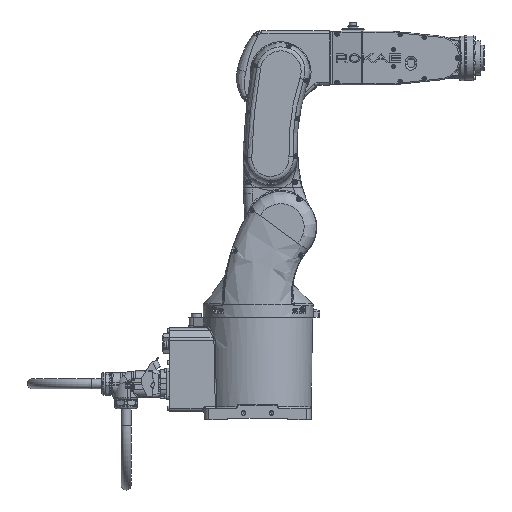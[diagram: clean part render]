
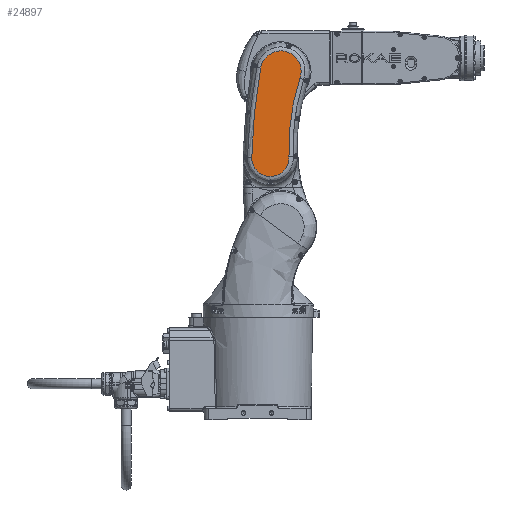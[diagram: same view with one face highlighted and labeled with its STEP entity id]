
A CAD part, front view. The second image highlights one B-rep face of the part: STEP entity #24897.
In plain terms, the highlighted planar face has unit normal (0, -1, 0).
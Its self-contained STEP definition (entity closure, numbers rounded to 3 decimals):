
#14519=FACE_OUTER_BOUND('',#34744,.T.);
#17639=B_SPLINE_CURVE_WITH_KNOTS('',3,(#133205,#133206,#133207,#133208,
#133209,#133210,#133211,#133212,#133213,#133214,#133215,#133216,#133217,
#133218,#133219,#133220,#133221,#133222,#133223,#133224,#133225,#133226,
#133227,#133228,#133229,#133230),.UNSPECIFIED.,.F.,.F.,(4,2,2,2,2,2,2,2,
2,2,2,2,4),(0.,0.063,0.125,0.188,0.25,
0.375,0.438,0.5,0.625,
0.688,0.75,0.875,1.),.UNSPECIFIED.);
#17661=B_SPLINE_CURVE_WITH_KNOTS('',3,(#133896,#133897,#133898,#133899,
#133900,#133901,#133902,#133903,#133904,#133905,#133906,#133907,#133908,
#133909,#133910,#133911,#133912,#133913,#133914,#133915,#133916,#133917,
#133918,#133919),.UNSPECIFIED.,.F.,.F.,(4,2,2,2,2,2,2,2,2,2,2,4),(0.,0.125,
0.187,0.25,0.375,0.5,0.563,0.625,
0.75,0.813,0.875,1.),.UNSPECIFIED.);
#17675=B_SPLINE_CURVE_WITH_KNOTS('',3,(#134203,#134204,#134205,#134206),
 .UNSPECIFIED.,.F.,.F.,(4,4),(0.,1.),.UNSPECIFIED.);
#17677=B_SPLINE_CURVE_WITH_KNOTS('',3,(#134235,#134236,#134237,#134238,
#134239,#134240),.UNSPECIFIED.,.F.,.F.,(4,2,4),(0.,0.5,1.),
 .UNSPECIFIED.);
#24897=ADVANCED_FACE('',(#14519),#28591,.T.);
#28591=PLANE('',#88062);
#34744=EDGE_LOOP('',(#50485,#50486,#50487,#50488));
#50485=ORIENTED_EDGE('',*,*,#73413,.T.);
#50486=ORIENTED_EDGE('',*,*,#73399,.T.);
#50487=ORIENTED_EDGE('',*,*,#73415,.T.);
#50488=ORIENTED_EDGE('',*,*,#73377,.T.);
#64064=VERTEX_POINT('',#133204);
#64065=VERTEX_POINT('',#133231);
#64083=VERTEX_POINT('',#133895);
#64084=VERTEX_POINT('',#133920);
#73377=EDGE_CURVE('',#64065,#64064,#17639,.T.);
#73399=EDGE_CURVE('',#64084,#64083,#17661,.T.);
#73413=EDGE_CURVE('',#64064,#64084,#17675,.T.);
#73415=EDGE_CURVE('',#64083,#64065,#17677,.T.);
#88062=AXIS2_PLACEMENT_3D('',#142266,#103637,#103638);
#103637=DIRECTION('',(0.,-1.,0.));
#103638=DIRECTION('',(0.,0.,1.));
#133204=CARTESIAN_POINT('',(-35.542,-94.,282.248));
#133205=CARTESIAN_POINT('',(34.174,-94.,263.995));
#133206=CARTESIAN_POINT('',(35.002,-94.,266.386));
#133207=CARTESIAN_POINT('',(35.587,-94.,268.817));
#133208=CARTESIAN_POINT('',(36.255,-94.,273.765));
#133209=CARTESIAN_POINT('',(36.343,-94.,276.31));
#133210=CARTESIAN_POINT('',(35.997,-94.,281.314));
#133211=CARTESIAN_POINT('',(35.573,-94.,283.772));
#133212=CARTESIAN_POINT('',(34.23,-94.,288.602));
#133213=CARTESIAN_POINT('',(33.302,-94.,290.974));
#133214=CARTESIAN_POINT('',(29.863,-94.,297.623));
#133215=CARTESIAN_POINT('',(26.619,-94.,301.622));
#133216=CARTESIAN_POINT('',(20.788,-94.,306.314));
#133217=CARTESIAN_POINT('',(18.644,-94.,307.692));
#133218=CARTESIAN_POINT('',(14.169,-94.,309.949));
#133219=CARTESIAN_POINT('',(11.837,-94.,310.839));
#133220=CARTESIAN_POINT('',(4.546,-94.,312.75));
#133221=CARTESIAN_POINT('',(-0.567,-94.,312.974));
#133222=CARTESIAN_POINT('',(-8.02,-94.,311.736));
#133223=CARTESIAN_POINT('',(-10.424,-94.,311.066));
#133224=CARTESIAN_POINT('',(-15.084,-94.,309.241));
#133225=CARTESIAN_POINT('',(-17.352,-94.,308.072));
#133226=CARTESIAN_POINT('',(-23.626,-94.,303.968));
#133227=CARTESIAN_POINT('',(-27.261,-94.,300.329));
#133228=CARTESIAN_POINT('',(-32.757,-94.,291.996));
#133229=CARTESIAN_POINT('',(-34.667,-94.,287.233));
#133230=CARTESIAN_POINT('',(-35.545,-94.,282.248));
#133231=CARTESIAN_POINT('',(34.173,-94.,263.996));
#133895=CARTESIAN_POINT('',(14.67,-94.,124.714));
#133896=CARTESIAN_POINT('',(-51.285,-94.,123.748));
#133897=CARTESIAN_POINT('',(-51.381,-94.,119.274));
#133898=CARTESIAN_POINT('',(-50.579,-94.,114.861));
#133899=CARTESIAN_POINT('',(-48.126,-94.,108.674));
#133900=CARTESIAN_POINT('',(-47.114,-94.,106.714));
#133901=CARTESIAN_POINT('',(-44.701,-94.,102.999));
#133902=CARTESIAN_POINT('',(-43.29,-94.,101.242));
#133903=CARTESIAN_POINT('',(-38.648,-94.,96.516));
#133904=CARTESIAN_POINT('',(-34.879,-94.,93.97));
#133905=CARTESIAN_POINT('',(-26.724,-94.,90.599));
#133906=CARTESIAN_POINT('',(-22.264,-94.,89.739));
#133907=CARTESIAN_POINT('',(-15.625,-94.,89.828));
#133908=CARTESIAN_POINT('',(-13.384,-94.,90.088));
#133909=CARTESIAN_POINT('',(-9.069,-94.,91.04));
#133910=CARTESIAN_POINT('',(-6.971,-94.,91.73));
#133911=CARTESIAN_POINT('',(-0.858,-94.,94.457));
#133912=CARTESIAN_POINT('',(2.796,-94.,97.083));
#133913=CARTESIAN_POINT('',(7.329,-94.,101.97));
#133914=CARTESIAN_POINT('',(8.66,-94.,103.731));
#133915=CARTESIAN_POINT('',(10.968,-94.,107.509));
#133916=CARTESIAN_POINT('',(11.945,-94.,109.541));
#133917=CARTESIAN_POINT('',(14.209,-94.,115.77));
#133918=CARTESIAN_POINT('',(14.859,-94.,120.246));
#133919=CARTESIAN_POINT('',(14.669,-94.,124.714));
#133920=CARTESIAN_POINT('',(-51.286,-94.,123.748));
#134203=CARTESIAN_POINT('',(-35.542,-94.,282.248));
#134204=CARTESIAN_POINT('',(-44.993,-94.,229.928));
#134205=CARTESIAN_POINT('',(-50.255,-94.,176.904));
#134206=CARTESIAN_POINT('',(-51.287,-94.,123.748));
#134235=CARTESIAN_POINT('',(14.671,-94.,124.714));
#134236=CARTESIAN_POINT('',(13.717,-94.,148.286));
#134237=CARTESIAN_POINT('',(14.898,-94.,171.931));
#134238=CARTESIAN_POINT('',(21.448,-94.,218.604));
#134239=CARTESIAN_POINT('',(26.806,-94.,241.584));
#134240=CARTESIAN_POINT('',(34.171,-94.,263.996));
#142266=CARTESIAN_POINT('',(200.269,-94.,132.195));
